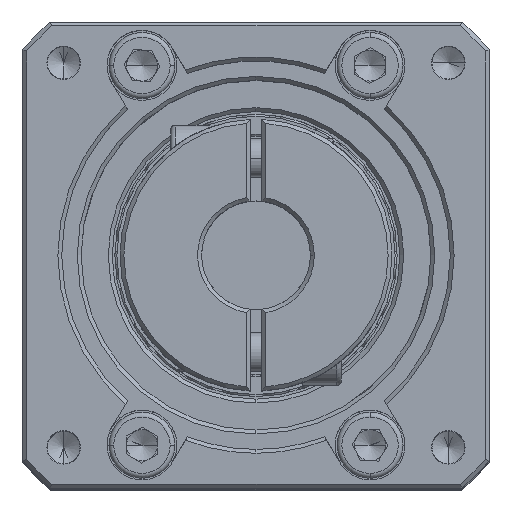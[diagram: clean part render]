
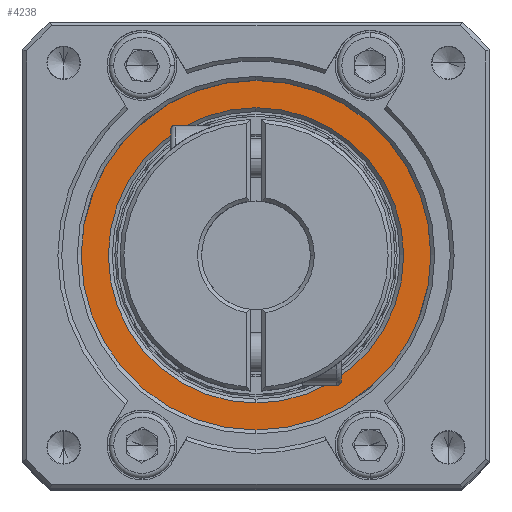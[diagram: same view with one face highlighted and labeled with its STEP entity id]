
A CAD part, top view. The second image highlights one B-rep face of the part: STEP entity #4238.
In plain terms, the highlighted planar face has unit normal (0, 0, 1).
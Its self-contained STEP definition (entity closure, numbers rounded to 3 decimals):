
#4238 = ADVANCED_FACE ( 'NONE', ( #57558, #54744 ), #58508, .T. ) ;
#5250 = DIRECTION ( 'NONE',  ( 0., -1., 0. ) ) ;
#7310 = AXIS2_PLACEMENT_3D ( 'NONE', #68559, #14952, #77634 ) ;
#8735 = CARTESIAN_POINT ( 'NONE',  ( -92.506, 31.383, 14.297 ) ) ;
#8784 = DIRECTION ( 'NONE',  ( 0., 0., -1. ) ) ;
#11040 = EDGE_CURVE ( 'NONE', #49054, #78297, #19174, .T. ) ;
#14952 = DIRECTION ( 'NONE',  ( 0., 0., 1. ) ) ;
#19174 = CIRCLE ( 'NONE', #19440, 19. ) ;
#19440 = AXIS2_PLACEMENT_3D ( 'NONE', #39550, #102321, #48567 ) ;
#26988 = ORIENTED_EDGE ( 'NONE', *, *, #42098, .T. ) ;
#27074 = CARTESIAN_POINT ( 'NONE',  ( -92.506, 34.883, 14.297 ) ) ;
#37939 = AXIS2_PLACEMENT_3D ( 'NONE', #104285, #50523, #113329 ) ;
#38621 = ORIENTED_EDGE ( 'NONE', *, *, #11040, .T. ) ;
#38689 = VERTEX_POINT ( 'NONE', #8735 ) ;
#39550 = CARTESIAN_POINT ( 'NONE',  ( -92.506, 53.883, 14.297 ) ) ;
#42098 = EDGE_CURVE ( 'NONE', #78297, #49054, #74429, .T. ) ;
#48567 = DIRECTION ( 'NONE',  ( 0., -1., 0. ) ) ;
#49054 = VERTEX_POINT ( 'NONE', #27074 ) ;
#50523 = DIRECTION ( 'NONE',  ( 0., 0., 1. ) ) ;
#54744 = FACE_OUTER_BOUND ( 'NONE', #88048, .T. ) ;
#57558 = FACE_BOUND ( 'NONE', #58870, .T. ) ;
#58508 = PLANE ( 'NONE',  #116314 ) ;
#58870 = EDGE_LOOP ( 'NONE', ( #38621, #26988 ) ) ;
#58893 = DIRECTION ( 'NONE',  ( 0., 0., 1. ) ) ;
#62418 = CARTESIAN_POINT ( 'NONE',  ( -92.506, 53.883, 14.297 ) ) ;
#68559 = CARTESIAN_POINT ( 'NONE',  ( -92.506, 53.883, 14.297 ) ) ;
#71447 = DIRECTION ( 'NONE',  ( 0., -1., 0. ) ) ;
#72617 = ORIENTED_EDGE ( 'NONE', *, *, #106984, .T. ) ;
#73769 = CARTESIAN_POINT ( 'NONE',  ( -92.506, 76.383, 14.297 ) ) ;
#74429 = CIRCLE ( 'NONE', #114343, 19. ) ;
#77634 = DIRECTION ( 'NONE',  ( 0., -1., 0. ) ) ;
#78297 = VERTEX_POINT ( 'NONE', #97299 ) ;
#82529 = CIRCLE ( 'NONE', #37939, 22.5 ) ;
#88048 = EDGE_LOOP ( 'NONE', ( #72617, #95423 ) ) ;
#95423 = ORIENTED_EDGE ( 'NONE', *, *, #113178, .T. ) ;
#97299 = CARTESIAN_POINT ( 'NONE',  ( -92.506, 72.883, 14.297 ) ) ;
#102321 = DIRECTION ( 'NONE',  ( 0., 0., -1. ) ) ;
#104285 = CARTESIAN_POINT ( 'NONE',  ( -92.506, 53.883, 14.297 ) ) ;
#105174 = CIRCLE ( 'NONE', #7310, 22.5 ) ;
#105689 = VERTEX_POINT ( 'NONE', #73769 ) ;
#106984 = EDGE_CURVE ( 'NONE', #38689, #105689, #82529, .T. ) ;
#112654 = CARTESIAN_POINT ( 'NONE',  ( -92.506, 53.883, 14.297 ) ) ;
#113178 = EDGE_CURVE ( 'NONE', #105689, #38689, #105174, .T. ) ;
#113329 = DIRECTION ( 'NONE',  ( 0., -1., 0. ) ) ;
#114343 = AXIS2_PLACEMENT_3D ( 'NONE', #62418, #8784, #71447 ) ;
#116314 = AXIS2_PLACEMENT_3D ( 'NONE', #112654, #58893, #5250 ) ;
